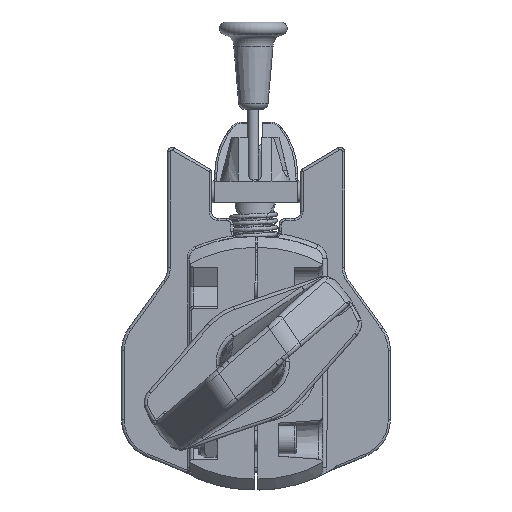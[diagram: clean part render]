
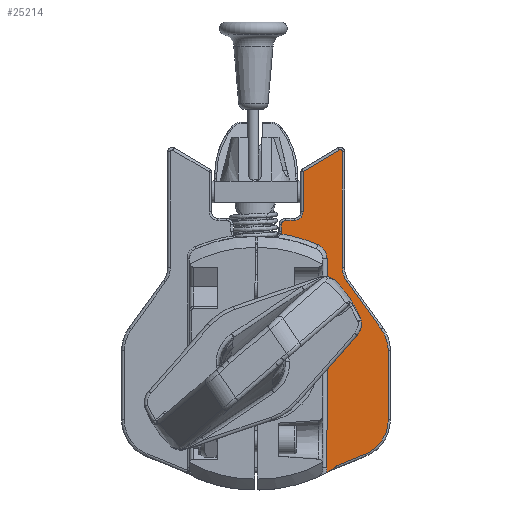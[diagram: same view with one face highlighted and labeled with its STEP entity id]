
A CAD part, front view. The second image highlights one B-rep face of the part: STEP entity #25214.
In plain terms, the highlighted planar face has unit normal (0.001, -1, 0) as drawn and (0, 1, 0) by its records, which use the part's own axes.
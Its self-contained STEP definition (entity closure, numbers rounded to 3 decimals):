
#1156=PLANE('',#27015);
#1906=LINE('',#40311,#3587);
#1907=LINE('',#40322,#3588);
#1909=LINE('',#40334,#3590);
#1926=LINE('',#40466,#3607);
#1927=LINE('',#40473,#3608);
#1929=LINE('',#40502,#3610);
#1931=LINE('',#40514,#3612);
#1933=LINE('',#40526,#3614);
#1969=LINE('',#40717,#3650);
#3587=VECTOR('',#30017,10.);
#3588=VECTOR('',#30030,10.);
#3590=VECTOR('',#30044,10.);
#3607=VECTOR('',#30115,10.);
#3608=VECTOR('',#30122,10.);
#3610=VECTOR('',#30136,10.);
#3612=VECTOR('',#30150,10.);
#3614=VECTOR('',#30164,10.);
#3650=VECTOR('',#30320,10.);
#5201=FACE_OUTER_BOUND('',#6815,.T.);
#6815=EDGE_LOOP('',(#18175,#18176,#18177,#18178,#18179,#18180,#18181,#18182,
#18183,#18184,#18185,#18186,#18187,#18188,#18189,#18190,#18191,#18192,#18193,
#18194));
#8336=CIRCLE('',#26890,4.);
#8340=CIRCLE('',#26896,2.);
#8344=CIRCLE('',#26902,4.);
#8362=CIRCLE('',#26932,17.);
#8366=CIRCLE('',#26938,17.);
#8370=CIRCLE('',#26944,11.);
#8373=CIRCLE('',#26948,1.);
#8399=CIRCLE('',#27005,7.);
#8403=CIRCLE('',#27011,7.);
#8405=CIRCLE('',#27014,65.);
#8406=CIRCLE('',#27016,63.);
#10847=VERTEX_POINT('',#40305);
#10849=VERTEX_POINT('',#40309);
#10851=VERTEX_POINT('',#40314);
#10853=VERTEX_POINT('',#40320);
#10855=VERTEX_POINT('',#40326);
#10857=VERTEX_POINT('',#40332);
#10859=VERTEX_POINT('',#40338);
#10880=VERTEX_POINT('',#40465);
#10882=VERTEX_POINT('',#40470);
#10883=VERTEX_POINT('',#40472);
#10886=VERTEX_POINT('',#40494);
#10888=VERTEX_POINT('',#40500);
#10890=VERTEX_POINT('',#40506);
#10892=VERTEX_POINT('',#40512);
#10894=VERTEX_POINT('',#40518);
#10896=VERTEX_POINT('',#40524);
#10924=VERTEX_POINT('',#40697);
#10927=VERTEX_POINT('',#40702);
#10928=VERTEX_POINT('',#40713);
#10930=VERTEX_POINT('',#40719);
#13474=EDGE_CURVE('',#10849,#10847,#1906,.T.);
#13476=EDGE_CURVE('',#10851,#10849,#8336,.T.);
#13479=EDGE_CURVE('',#10853,#10851,#1907,.T.);
#13482=EDGE_CURVE('',#10855,#10853,#8340,.T.);
#13485=EDGE_CURVE('',#10857,#10855,#1909,.T.);
#13488=EDGE_CURVE('',#10859,#10857,#8344,.T.);
#13521=EDGE_CURVE('',#10847,#10880,#1926,.T.);
#13524=EDGE_CURVE('',#10882,#10883,#1927,.T.);
#13528=EDGE_CURVE('',#10886,#10882,#8362,.T.);
#13531=EDGE_CURVE('',#10888,#10886,#1929,.T.);
#13534=EDGE_CURVE('',#10890,#10888,#8366,.T.);
#13537=EDGE_CURVE('',#10892,#10890,#1931,.T.);
#13540=EDGE_CURVE('',#10894,#10892,#8370,.T.);
#13543=EDGE_CURVE('',#10896,#10894,#1933,.T.);
#13545=EDGE_CURVE('',#10880,#10896,#8373,.T.);
#13609=EDGE_CURVE('',#10927,#10924,#8399,.T.);
#13612=EDGE_CURVE('',#10924,#10928,#1969,.T.);
#13615=EDGE_CURVE('',#10928,#10930,#8403,.T.);
#13617=EDGE_CURVE('',#10930,#10859,#8405,.T.);
#13618=EDGE_CURVE('',#10927,#10883,#8406,.T.);
#18175=ORIENTED_EDGE('',*,*,#13488,.F.);
#18176=ORIENTED_EDGE('',*,*,#13617,.F.);
#18177=ORIENTED_EDGE('',*,*,#13615,.F.);
#18178=ORIENTED_EDGE('',*,*,#13612,.F.);
#18179=ORIENTED_EDGE('',*,*,#13609,.F.);
#18180=ORIENTED_EDGE('',*,*,#13618,.T.);
#18181=ORIENTED_EDGE('',*,*,#13524,.F.);
#18182=ORIENTED_EDGE('',*,*,#13528,.F.);
#18183=ORIENTED_EDGE('',*,*,#13531,.F.);
#18184=ORIENTED_EDGE('',*,*,#13534,.F.);
#18185=ORIENTED_EDGE('',*,*,#13537,.F.);
#18186=ORIENTED_EDGE('',*,*,#13540,.F.);
#18187=ORIENTED_EDGE('',*,*,#13543,.F.);
#18188=ORIENTED_EDGE('',*,*,#13545,.F.);
#18189=ORIENTED_EDGE('',*,*,#13521,.F.);
#18190=ORIENTED_EDGE('',*,*,#13474,.F.);
#18191=ORIENTED_EDGE('',*,*,#13476,.F.);
#18192=ORIENTED_EDGE('',*,*,#13479,.F.);
#18193=ORIENTED_EDGE('',*,*,#13482,.F.);
#18194=ORIENTED_EDGE('',*,*,#13485,.F.);
#25214=ADVANCED_FACE('',(#5201),#1156,.T.);
#26890=AXIS2_PLACEMENT_3D('',#40316,#30022,#30023);
#26896=AXIS2_PLACEMENT_3D('',#40328,#30036,#30037);
#26902=AXIS2_PLACEMENT_3D('',#40340,#30050,#30051);
#26932=AXIS2_PLACEMENT_3D('',#40496,#30128,#30129);
#26938=AXIS2_PLACEMENT_3D('',#40508,#30142,#30143);
#26944=AXIS2_PLACEMENT_3D('',#40520,#30156,#30157);
#26948=AXIS2_PLACEMENT_3D('',#40543,#30166,#30167);
#27005=AXIS2_PLACEMENT_3D('',#40711,#30313,#30314);
#27011=AXIS2_PLACEMENT_3D('',#40723,#30327,#30328);
#27014=AXIS2_PLACEMENT_3D('',#40726,#30333,#30334);
#27015=AXIS2_PLACEMENT_3D('',#40727,#30335,#30336);
#27016=AXIS2_PLACEMENT_3D('',#40728,#30337,#30338);
#30017=DIRECTION('',(1.,0.,0.));
#30022=DIRECTION('center_axis',(0.,1.,0.));
#30023=DIRECTION('ref_axis',(-0.707,0.,0.707));
#30030=DIRECTION('',(0.,0.,1.));
#30036=DIRECTION('center_axis',(0.,-1.,0.));
#30037=DIRECTION('ref_axis',(0.707,0.,-0.707));
#30044=DIRECTION('',(1.,0.,0.));
#30050=DIRECTION('center_axis',(0.,1.,0.));
#30051=DIRECTION('ref_axis',(-0.165,0.,0.986));
#30115=DIRECTION('',(0.515,0.,0.857));
#30122=DIRECTION('',(-0.376,0.,-0.927));
#30128=DIRECTION('center_axis',(0.,-1.,0.));
#30129=DIRECTION('ref_axis',(-0.559,0.,0.829));
#30136=DIRECTION('',(-1.,0.,0.));
#30142=DIRECTION('center_axis',(0.,-1.,0.));
#30143=DIRECTION('ref_axis',(0.308,0.,0.951));
#30150=DIRECTION('',(-0.81,0.,0.587));
#30156=DIRECTION('center_axis',(0.,1.,0.));
#30157=DIRECTION('ref_axis',(-0.308,0.,-0.951));
#30164=DIRECTION('',(-1.,0.,0.));
#30166=DIRECTION('center_axis',(0.,-1.,0.));
#30167=DIRECTION('ref_axis',(0.87,0.,0.492));
#30313=DIRECTION('center_axis',(0.,1.,0.));
#30314=DIRECTION('ref_axis',(-0.541,0.,0.841));
#30320=DIRECTION('',(1.,0.,0.));
#30327=DIRECTION('center_axis',(0.,1.,0.));
#30328=DIRECTION('ref_axis',(0.541,0.,0.841));
#30333=DIRECTION('center_axis',(0.,1.,0.));
#30334=DIRECTION('ref_axis',(0.964,0.,0.267));
#30335=DIRECTION('center_axis',(0.,1.,0.));
#30336=DIRECTION('ref_axis',(0.,0.,1.));
#30337=DIRECTION('center_axis',(0.,1.,0.));
#30338=DIRECTION('ref_axis',(-1.,0.,0.));
#40305=CARTESIAN_POINT('',(87.81,25.,20.));
#40309=CARTESIAN_POINT('',(69.376,25.,20.));
#40311=CARTESIAN_POINT('',(52.655,25.,20.));
#40314=CARTESIAN_POINT('',(65.376,25.,16.));
#40316=CARTESIAN_POINT('Origin',(69.376,25.,16.));
#40320=CARTESIAN_POINT('',(65.376,25.,12.));
#40322=CARTESIAN_POINT('',(65.376,25.,32.472));
#40326=CARTESIAN_POINT('',(63.376,25.,10.));
#40328=CARTESIAN_POINT('Origin',(63.376,25.,12.));
#40332=CARTESIAN_POINT('',(60.376,25.,10.));
#40334=CARTESIAN_POINT('',(41.655,25.,10.));
#40338=CARTESIAN_POINT('',(59.251,25.,9.839));
#40340=CARTESIAN_POINT('Origin',(60.376,25.,6.));
#40465=CARTESIAN_POINT('',(97.715,25.,36.485));
#40466=CARTESIAN_POINT('',(89.089,25.,22.129));
#40470=CARTESIAN_POINT('',(-41.63,25.,48.39));
#40472=CARTESIAN_POINT('',(-46.592,25.,36.156));
#40473=CARTESIAN_POINT('',(-41.421,25.,48.906));
#40494=CARTESIAN_POINT('',(-25.877,25.,59.));
#40496=CARTESIAN_POINT('Origin',(-25.877,25.,42.));
#40500=CARTESIAN_POINT('',(5.74,25.,59.));
#40502=CARTESIAN_POINT('',(-4.471,25.,59.));
#40506=CARTESIAN_POINT('',(15.71,25.,55.769));
#40508=CARTESIAN_POINT('Origin',(5.74,25.,42.));
#40512=CARTESIAN_POINT('',(37.361,25.,40.091));
#40514=CARTESIAN_POINT('',(18.445,25.,53.788));
#40518=CARTESIAN_POINT('',(43.813,25.,38.));
#40520=CARTESIAN_POINT('Origin',(43.813,25.,49.));
#40524=CARTESIAN_POINT('',(96.858,25.,38.));
#40526=CARTESIAN_POINT('',(55.164,25.,38.));
#40543=CARTESIAN_POINT('Origin',(96.858,25.,37.));
#40697=CARTESIAN_POINT('',(-47.802,25.,31.));
#40702=CARTESIAN_POINT('',(-50.054,25.,30.628));
#40711=CARTESIAN_POINT('Origin',(-47.802,25.,24.));
#40713=CARTESIAN_POINT('',(47.802,25.,31.));
#40717=CARTESIAN_POINT('',(-16.997,25.,31.));
#40719=CARTESIAN_POINT('',(54.174,25.,26.897));
#40723=CARTESIAN_POINT('Origin',(47.802,25.,24.));
#40726=CARTESIAN_POINT('Origin',(-5.,25.,0.));
#40727=CARTESIAN_POINT('Origin',(16.935,25.,45.945));
#40728=CARTESIAN_POINT('Origin',(5.,25.,0.));
